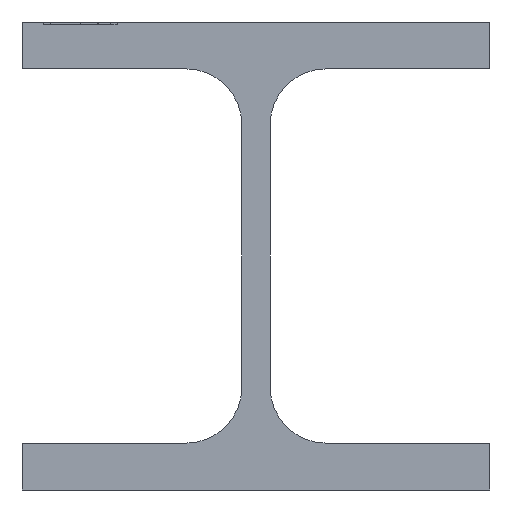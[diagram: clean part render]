
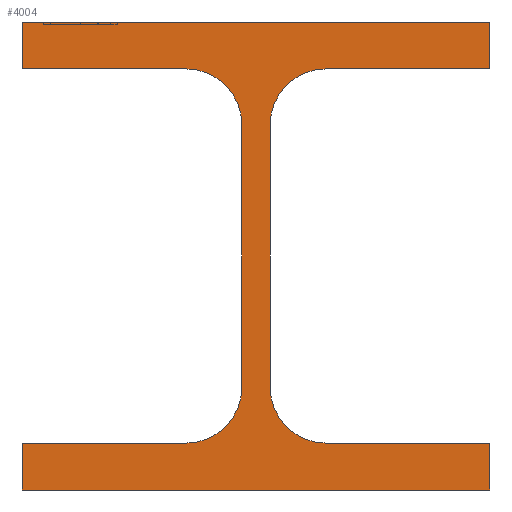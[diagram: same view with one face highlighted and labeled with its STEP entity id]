
A CAD part, left-side view. The second image highlights one B-rep face of the part: STEP entity #4004.
In plain terms, the highlighted planar face has unit normal (-1, 0, 0).
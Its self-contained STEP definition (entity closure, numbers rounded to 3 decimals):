
#103 = VECTOR ( 'NONE', #1341, 1000. ) ;
#106 = VECTOR ( 'NONE', #388, 1000. ) ;
#153 = CARTESIAN_POINT ( 'NONE',  ( -55., 15., 5080. ) ) ;
#168 = ORIENTED_EDGE ( 'NONE', *, *, #3349, .T. ) ;
#184 = FACE_OUTER_BOUND ( 'NONE', #1835, .T. ) ;
#191 = CARTESIAN_POINT ( 'NONE',  ( -55., 50., 5160. ) ) ;
#219 = VECTOR ( 'NONE', #2129, 1000. ) ;
#239 = DIRECTION ( 'NONE',  ( 0., 0., 1. ) ) ;
#293 = AXIS2_PLACEMENT_3D ( 'NONE', #977, #2239, #1946 ) ;
#312 = VERTEX_POINT ( 'NONE', #153 ) ;
#388 = DIRECTION ( 'NONE',  ( 0., 0., -1. ) ) ;
#391 = VERTEX_POINT ( 'NONE', #1532 ) ;
#414 = CARTESIAN_POINT ( 'NONE',  ( -55., 50., 5080. ) ) ;
#438 = EDGE_CURVE ( 'NONE', #312, #3945, #855, .T. ) ;
#453 = LINE ( 'NONE', #2661, #2357 ) ;
#483 = LINE ( 'NONE', #3296, #3696 ) ;
#502 = VECTOR ( 'NONE', #1948, 1000. ) ;
#518 = VECTOR ( 'NONE', #3475, 1000. ) ;
#545 = CIRCLE ( 'NONE', #2847, 12. ) ;
#569 = VECTOR ( 'NONE', #2965, 1000. ) ;
#616 = DIRECTION ( 'NONE',  ( 0., 0., 1. ) ) ;
#646 = CARTESIAN_POINT ( 'NONE',  ( -55., -50., 5160. ) ) ;
#649 = LINE ( 'NONE', #2003, #106 ) ;
#686 = VERTEX_POINT ( 'NONE', #1010 ) ;
#689 = CARTESIAN_POINT ( 'NONE',  ( -55., 50., 5170. ) ) ;
#773 = DIRECTION ( 'NONE',  ( 0., 1., 0. ) ) ;
#789 = EDGE_CURVE ( 'NONE', #1404, #2313, #2521, .T. ) ;
#824 = PLANE ( 'NONE',  #3467 ) ;
#855 = LINE ( 'NONE', #4019, #219 ) ;
#977 = CARTESIAN_POINT ( 'NONE',  ( -55., 15., 5148. ) ) ;
#982 = CARTESIAN_POINT ( 'NONE',  ( -55., -15., 5080. ) ) ;
#999 = ORIENTED_EDGE ( 'NONE', *, *, #3292, .T. ) ;
#1010 = CARTESIAN_POINT ( 'NONE',  ( -55., -3., 5148. ) ) ;
#1036 = EDGE_CURVE ( 'NONE', #3177, #2752, #545, .T. ) ;
#1096 = DIRECTION ( 'NONE',  ( 0., 1., 0. ) ) ;
#1108 = DIRECTION ( 'NONE',  ( 0., -1., 0. ) ) ;
#1131 = LINE ( 'NONE', #2979, #1555 ) ;
#1136 = CARTESIAN_POINT ( 'NONE',  ( -55., -3., 5092. ) ) ;
#1172 = EDGE_CURVE ( 'NONE', #3273, #1404, #483, .T. ) ;
#1178 = CIRCLE ( 'NONE', #3786, 12. ) ;
#1206 = LINE ( 'NONE', #4005, #3993 ) ;
#1292 = LINE ( 'NONE', #3511, #502 ) ;
#1309 = VERTEX_POINT ( 'NONE', #4002 ) ;
#1341 = DIRECTION ( 'NONE',  ( 0., 0., -1. ) ) ;
#1364 = CARTESIAN_POINT ( 'NONE',  ( -55., -50., 5070. ) ) ;
#1404 = VERTEX_POINT ( 'NONE', #1364 ) ;
#1511 = CARTESIAN_POINT ( 'NONE',  ( -55., -50., 5070. ) ) ;
#1532 = CARTESIAN_POINT ( 'NONE',  ( -55., -50., 5170. ) ) ;
#1549 = DIRECTION ( 'NONE',  ( 0., 0., 1. ) ) ;
#1555 = VECTOR ( 'NONE', #773, 1000. ) ;
#1568 = LINE ( 'NONE', #3740, #518 ) ;
#1583 = DIRECTION ( 'NONE',  ( 0., -1., 0. ) ) ;
#1711 = LINE ( 'NONE', #1136, #569 ) ;
#1733 = VERTEX_POINT ( 'NONE', #689 ) ;
#1760 = ORIENTED_EDGE ( 'NONE', *, *, #2681, .T. ) ;
#1774 = AXIS2_PLACEMENT_3D ( 'NONE', #2544, #3433, #616 ) ;
#1835 = EDGE_LOOP ( 'NONE', ( #168, #3069, #4014, #2147, #3101, #2075, #2432, #4070, #4011, #1760, #2855, #2615, #3967, #2405, #999, #4003 ) ) ;
#1946 = DIRECTION ( 'NONE',  ( 0., 0., 1. ) ) ;
#1948 = DIRECTION ( 'NONE',  ( 0., 0., 1. ) ) ;
#2003 = CARTESIAN_POINT ( 'NONE',  ( -55., 3., 5148. ) ) ;
#2075 = ORIENTED_EDGE ( 'NONE', *, *, #2453, .T. ) ;
#2077 = CARTESIAN_POINT ( 'NONE',  ( -55., 15., 5092. ) ) ;
#2081 = LINE ( 'NONE', #191, #3527 ) ;
#2099 = CARTESIAN_POINT ( 'NONE',  ( -55., 1025., 5165. ) ) ;
#2129 = DIRECTION ( 'NONE',  ( 0., 1., 0. ) ) ;
#2139 = VECTOR ( 'NONE', #1549, 1000. ) ;
#2147 = ORIENTED_EDGE ( 'NONE', *, *, #3526, .T. ) ;
#2185 = EDGE_CURVE ( 'NONE', #2849, #391, #1292, .T. ) ;
#2203 = DIRECTION ( 'NONE',  ( 0., -1., 0. ) ) ;
#2238 = VERTEX_POINT ( 'NONE', #3263 ) ;
#2239 = DIRECTION ( 'NONE',  ( 1., 0., 0. ) ) ;
#2307 = VERTEX_POINT ( 'NONE', #2619 ) ;
#2313 = VERTEX_POINT ( 'NONE', #3864 ) ;
#2357 = VECTOR ( 'NONE', #1096, 1000. ) ;
#2360 = CARTESIAN_POINT ( 'NONE',  ( -55., -3., 5092. ) ) ;
#2365 = VERTEX_POINT ( 'NONE', #2757 ) ;
#2405 = ORIENTED_EDGE ( 'NONE', *, *, #1036, .T. ) ;
#2412 = CARTESIAN_POINT ( 'NONE',  ( -55., -15., 5092. ) ) ;
#2432 = ORIENTED_EDGE ( 'NONE', *, *, #3170, .T. ) ;
#2437 = CARTESIAN_POINT ( 'NONE',  ( -55., 50., 5080. ) ) ;
#2453 = EDGE_CURVE ( 'NONE', #2238, #3515, #3522, .T. ) ;
#2521 = LINE ( 'NONE', #1511, #2139 ) ;
#2544 = CARTESIAN_POINT ( 'NONE',  ( -55., -15., 5148. ) ) ;
#2615 = ORIENTED_EDGE ( 'NONE', *, *, #789, .T. ) ;
#2619 = CARTESIAN_POINT ( 'NONE',  ( -55., 50., 5160. ) ) ;
#2661 = CARTESIAN_POINT ( 'NONE',  ( -55., -50., 5170. ) ) ;
#2681 = EDGE_CURVE ( 'NONE', #3945, #3273, #2871, .T. ) ;
#2692 = CIRCLE ( 'NONE', #1774, 12. ) ;
#2752 = VERTEX_POINT ( 'NONE', #2360 ) ;
#2757 = CARTESIAN_POINT ( 'NONE',  ( -55., -15., 5160. ) ) ;
#2847 = AXIS2_PLACEMENT_3D ( 'NONE', #2412, #3020, #3984 ) ;
#2849 = VERTEX_POINT ( 'NONE', #646 ) ;
#2855 = ORIENTED_EDGE ( 'NONE', *, *, #1172, .T. ) ;
#2871 = LINE ( 'NONE', #414, #103 ) ;
#2959 = EDGE_CURVE ( 'NONE', #2307, #2238, #2081, .T. ) ;
#2965 = DIRECTION ( 'NONE',  ( 0., 0., 1. ) ) ;
#2979 = CARTESIAN_POINT ( 'NONE',  ( -55., -50., 5080. ) ) ;
#3020 = DIRECTION ( 'NONE',  ( 1., 0., 0. ) ) ;
#3021 = CARTESIAN_POINT ( 'NONE',  ( -55., 3., 5148. ) ) ;
#3030 = DIRECTION ( 'NONE',  ( 0., 0., 1. ) ) ;
#3069 = ORIENTED_EDGE ( 'NONE', *, *, #2185, .T. ) ;
#3101 = ORIENTED_EDGE ( 'NONE', *, *, #2959, .T. ) ;
#3118 = EDGE_CURVE ( 'NONE', #391, #1733, #453, .T. ) ;
#3170 = EDGE_CURVE ( 'NONE', #3515, #1309, #649, .T. ) ;
#3177 = VERTEX_POINT ( 'NONE', #982 ) ;
#3263 = CARTESIAN_POINT ( 'NONE',  ( -55., 15., 5160. ) ) ;
#3273 = VERTEX_POINT ( 'NONE', #3327 ) ;
#3292 = EDGE_CURVE ( 'NONE', #2752, #686, #1711, .T. ) ;
#3296 = CARTESIAN_POINT ( 'NONE',  ( -55., 50., 5070. ) ) ;
#3327 = CARTESIAN_POINT ( 'NONE',  ( -55., 50., 5070. ) ) ;
#3330 = DIRECTION ( 'NONE',  ( -1., 0., 0. ) ) ;
#3349 = EDGE_CURVE ( 'NONE', #2365, #2849, #1206, .T. ) ;
#3433 = DIRECTION ( 'NONE',  ( 1., 0., 0. ) ) ;
#3446 = EDGE_CURVE ( 'NONE', #2313, #3177, #1131, .T. ) ;
#3467 = AXIS2_PLACEMENT_3D ( 'NONE', #2099, #3330, #239 ) ;
#3475 = DIRECTION ( 'NONE',  ( 0., 0., -1. ) ) ;
#3511 = CARTESIAN_POINT ( 'NONE',  ( -55., -50., 5160. ) ) ;
#3515 = VERTEX_POINT ( 'NONE', #3021 ) ;
#3522 = CIRCLE ( 'NONE', #293, 12. ) ;
#3526 = EDGE_CURVE ( 'NONE', #1733, #2307, #1568, .T. ) ;
#3527 = VECTOR ( 'NONE', #1583, 1000. ) ;
#3546 = EDGE_CURVE ( 'NONE', #686, #2365, #2692, .T. ) ;
#3606 = DIRECTION ( 'NONE',  ( 1., 0., 0. ) ) ;
#3696 = VECTOR ( 'NONE', #1108, 1000. ) ;
#3697 = EDGE_CURVE ( 'NONE', #1309, #312, #1178, .T. ) ;
#3740 = CARTESIAN_POINT ( 'NONE',  ( -55., 50., 5170. ) ) ;
#3786 = AXIS2_PLACEMENT_3D ( 'NONE', #2077, #3606, #3030 ) ;
#3864 = CARTESIAN_POINT ( 'NONE',  ( -55., -50., 5080. ) ) ;
#3945 = VERTEX_POINT ( 'NONE', #2437 ) ;
#3967 = ORIENTED_EDGE ( 'NONE', *, *, #3446, .T. ) ;
#3984 = DIRECTION ( 'NONE',  ( 0., 0., 1. ) ) ;
#3993 = VECTOR ( 'NONE', #2203, 1000. ) ;
#4002 = CARTESIAN_POINT ( 'NONE',  ( -55., 3., 5092. ) ) ;
#4003 = ORIENTED_EDGE ( 'NONE', *, *, #3546, .T. ) ;
#4004 = ADVANCED_FACE ( 'NONE', ( #184 ), #824, .T. ) ;
#4005 = CARTESIAN_POINT ( 'NONE',  ( -55., -15., 5160. ) ) ;
#4011 = ORIENTED_EDGE ( 'NONE', *, *, #438, .T. ) ;
#4014 = ORIENTED_EDGE ( 'NONE', *, *, #3118, .T. ) ;
#4019 = CARTESIAN_POINT ( 'NONE',  ( -55., 15., 5080. ) ) ;
#4070 = ORIENTED_EDGE ( 'NONE', *, *, #3697, .T. ) ;
